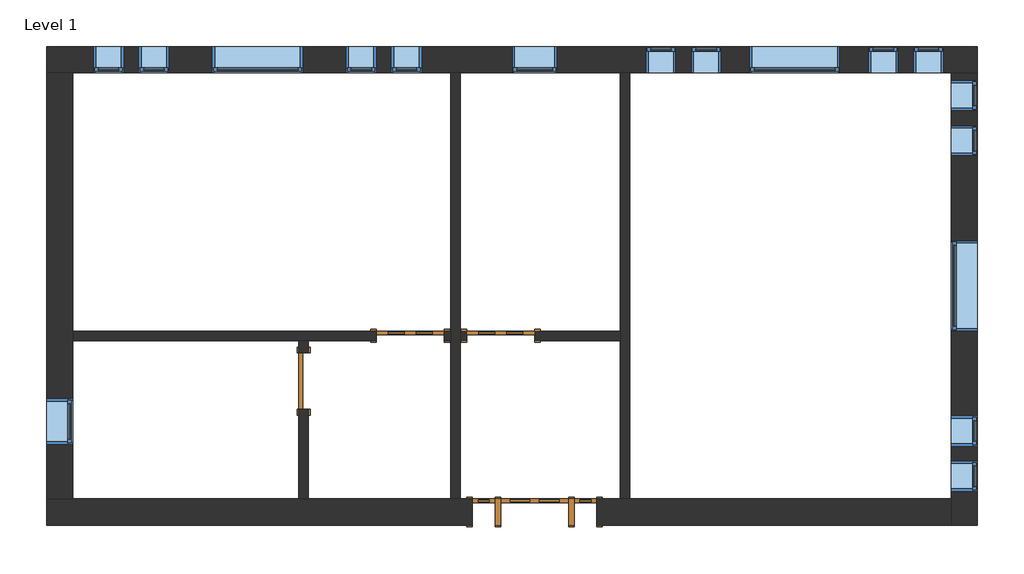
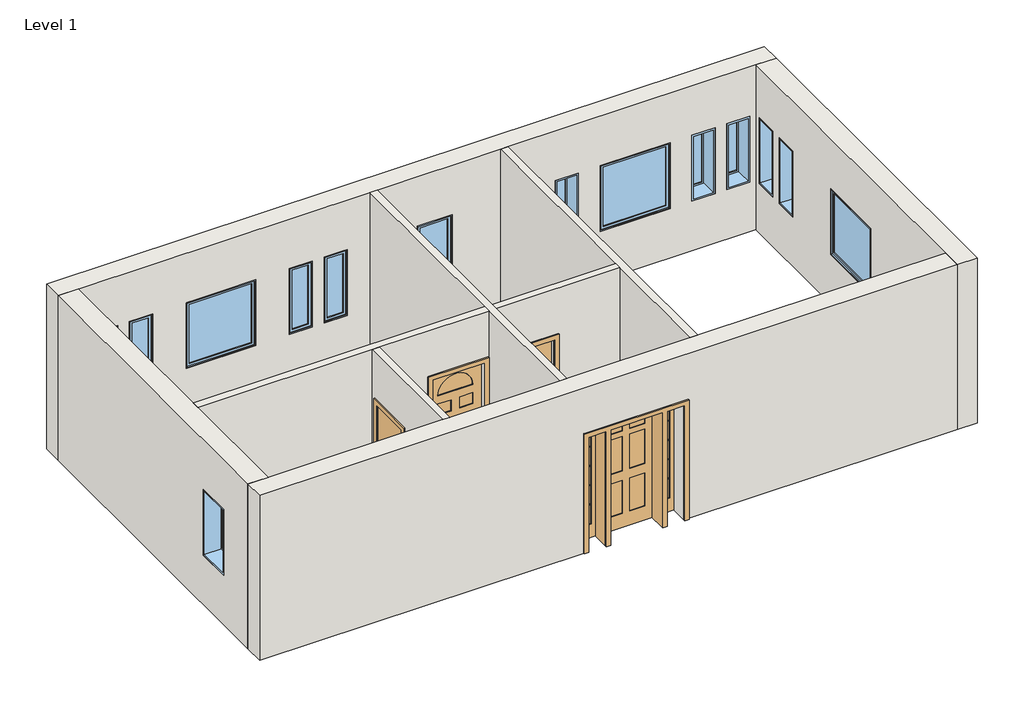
# One storey: 17 windows, 9 walls, 4 doors.
"""IFC4 building model written with IfcOpenShell, lengths in millimetres."""

from ifc_helpers import new_model, si_unit, frame, origin, place, context, project, spatial, polyline, outline, extrude, faceted_brep, transform, mapped, element, save
from components import door_829da954, door_2e3b4da2, door_4d6c7550, door_dba5aa2e, window_da97879f, window_d61ef850, window_60baf983, window_6eb97611

model = new_model("IFC4")

# Units and contexts
model_context = context("Model", 3, world=origin())
ifc_project = project(units=[si_unit("LENGTHUNIT", "METRE", prefix="MILLI")], contexts=[model_context])

# Site, building, storey
site = spatial("IfcSite", under=ifc_project)
building = spatial("IfcBuilding", under=site)
storey = spatial("IfcBuildingStorey", under=building, Name="Level 1", Elevation=0.0)

# Doors
placement = place(None, origin())
door_shape = door_829da954(model_context)
element("IfcDoor", 1, ObjectType="Single-Decorative 2 : 36\" x 84\"", at=placement, inside=storey, context=model_context, shape_type="MappedRepresentation", body=[
    mapped(door_shape, transform((-5449.8589563, 6723.5441867, 0.0), x_axis=(-1.0, 0.0, 0.0), y_axis=(0.0, -1.0, 0.0), z_axis=(0.0, 0.0, 1.0))),
])
door_2_shape = door_2e3b4da2(model_context)
element("IfcDoor", 2, ObjectType="Single-Decorative 2 : 36\" x 84\"", at=placement, inside=storey, context=model_context, shape_type="MappedRepresentation", body=[
    mapped(door_2_shape, transform((-6669.0589563, 6723.5441867, 0.0), x_axis=(1.0, 0.0, 0.0), y_axis=(0.0, 1.0, 0.0), z_axis=(0.0, 0.0, 1.0))),
])
door_3_shape = door_4d6c7550(model_context)
element("IfcDoor", 3, ObjectType="Single-Flush : 30\" x 84\"", at=placement, inside=storey, context=model_context, shape_type="MappedRepresentation", body=[
    mapped(door_3_shape, transform((-8105.7464563, 6113.9441867, 0.0), x_axis=(0.0, 1.0, 0.0), y_axis=(-1.0, 0.0, 0.0), z_axis=(0.0, 0.0, 1.0))),
])
door_4_shape = door_dba5aa2e(model_context)
element("IfcDoor", 4, ObjectType="Single-Raised Panel with Sidelights : 36\" x 84\"", at=placement, inside=storey, context=model_context, shape_type="MappedRepresentation", body=[
    mapped(door_4_shape, transform((-4992.6589563, 4350.2316867, 0.0), x_axis=(-1.0, 0.0, 0.0), y_axis=(0.0, -1.0, 0.0), z_axis=(0.0, 0.0, 1.0))),
])

# Walls
element("IfcWall", 5, ObjectType="Exterior - Brick on Mtl. Stud", at=placement, inside=storey, context=model_context, shape_type="Brep", body=[
    faceted_brep([(-11569.6714563, 10270.0191867, 0.0), (-11217.2464563, 10270.0191867, 0.0), (-6122.9589563, 10270.0191867, 0.0), (-5995.9589563, 10270.0191867, 0.0), (-3836.9589563, 10270.0191867, 0.0), (-3709.9589563, 10270.0191867, 0.0), (622.3285437, 10270.0191867, 0.0), (974.7535437, 10270.0191867, 0.0), (974.7535437, 10270.0191867, 3048.0), (622.3285437, 10270.0191867, 3048.0), (-3709.9589563, 10270.0191867, 3048.0), (-3836.9589563, 10270.0191867, 3048.0), (-5995.9589563, 10270.0191867, 3048.0), (-6122.9589563, 10270.0191867, 3048.0), (-11217.2464563, 10270.0191867, 3048.0), (-11569.6714563, 10270.0191867, 3048.0), (112.7410437, 10270.0191867, 2133.6), (519.1410437, 10270.0191867, 2133.6), (519.1410437, 10270.0191867, 914.4), (112.7410437, 10270.0191867, 914.4), (-496.8589563, 10270.0191867, 2133.6), (-90.4589563, 10270.0191867, 2133.6), (-90.4589563, 10270.0191867, 914.4), (-496.8589563, 10270.0191867, 914.4), (-3087.6589563, 10270.0191867, 2133.6), (-3087.6589563, 10270.0191867, 914.4), (-3494.0589563, 10270.0191867, 914.4), (-3494.0589563, 10270.0191867, 2133.6), (-2478.0589563, 10270.0191867, 2133.6), (-2478.0589563, 10270.0191867, 914.4), (-2884.4589563, 10270.0191867, 914.4), (-2884.4589563, 10270.0191867, 2133.6), (-7126.2589563, 10270.0191867, 2133.6), (-7126.2589563, 10270.0191867, 914.4), (-7532.6589563, 10270.0191867, 914.4), (-7532.6589563, 10270.0191867, 2133.6), (-6516.6589563, 10270.0191867, 2133.6), (-6516.6589563, 10270.0191867, 914.4), (-6923.0589563, 10270.0191867, 914.4), (-6923.0589563, 10270.0191867, 2133.6), (-10326.6589563, 10270.0191867, 2133.6), (-9920.2589563, 10270.0191867, 2133.6), (-9920.2589563, 10270.0191867, 914.4), (-10326.6589563, 10270.0191867, 914.4), (-10936.2589563, 10270.0191867, 2133.6), (-10529.8589563, 10270.0191867, 2133.6), (-10529.8589563, 10270.0191867, 914.4), (-10936.2589563, 10270.0191867, 914.4), (-2097.0589563, 10270.0191867, 2133.6), (-877.8589563, 10270.0191867, 2133.6), (-877.8589563, 10270.0191867, 914.4), (-2097.0589563, 10270.0191867, 914.4), (-9336.0589563, 10270.0191867, 2133.6), (-8116.8589563, 10270.0191867, 2133.6), (-8116.8589563, 10270.0191867, 914.4), (-9336.0589563, 10270.0191867, 914.4), (-5297.4589563, 10270.0191867, 2133.6), (-4687.8589563, 10270.0191867, 2133.6), (-4687.8589563, 10270.0191867, 914.4), (-5297.4589563, 10270.0191867, 914.4), (-11569.6714563, 10622.4441867, 0.0), (-11569.6714563, 10622.4441867, 3048.0), (974.7535437, 10622.4441867, 3048.0), (974.7535437, 10622.4441867, 0.0), (112.7410437, 10622.4441867, 2133.6), (112.7410437, 10622.4441867, 914.4), (519.1410437, 10622.4441867, 914.4), (519.1410437, 10622.4441867, 2133.6), (-496.8589563, 10622.4441867, 2133.6), (-496.8589563, 10622.4441867, 914.4), (-90.4589563, 10622.4441867, 914.4), (-90.4589563, 10622.4441867, 2133.6), (-3087.6589563, 10622.4441867, 2133.6), (-3494.0589563, 10622.4441867, 2133.6), (-3494.0589563, 10622.4441867, 914.4), (-3087.6589563, 10622.4441867, 914.4), (-2478.0589563, 10622.4441867, 2133.6), (-2884.4589563, 10622.4441867, 2133.6), (-2884.4589563, 10622.4441867, 914.4), (-2478.0589563, 10622.4441867, 914.4), (-7126.2589563, 10622.4441867, 2133.6), (-7532.6589563, 10622.4441867, 2133.6), (-7532.6589563, 10622.4441867, 914.4), (-7126.2589563, 10622.4441867, 914.4), (-6516.6589563, 10622.4441867, 2133.6), (-6923.0589563, 10622.4441867, 2133.6), (-6923.0589563, 10622.4441867, 914.4), (-6516.6589563, 10622.4441867, 914.4), (-10326.6589563, 10622.4441867, 2133.6), (-10326.6589563, 10622.4441867, 914.4), (-9920.2589563, 10622.4441867, 914.4), (-9920.2589563, 10622.4441867, 2133.6), (-10936.2589563, 10622.4441867, 2133.6), (-10936.2589563, 10622.4441867, 914.4), (-10529.8589563, 10622.4441867, 914.4), (-10529.8589563, 10622.4441867, 2133.6), (-2097.0589563, 10622.4441867, 2133.6), (-2097.0589563, 10622.4441867, 914.4), (-877.8589563, 10622.4441867, 914.4), (-877.8589563, 10622.4441867, 2133.6), (-9336.0589563, 10622.4441867, 2133.6), (-9336.0589563, 10622.4441867, 914.4), (-8116.8589563, 10622.4441867, 914.4), (-8116.8589563, 10622.4441867, 2133.6), (-5297.4589563, 10622.4441867, 2133.6), (-5297.4589563, 10622.4441867, 914.4), (-4687.8589563, 10622.4441867, 914.4), (-4687.8589563, 10622.4441867, 2133.6)], [[[0, 1, 2, 3, 4, 5, 6, 7, 8, 9, 10, 11, 12, 13, 14, 15], [16, 17, 18, 19], [20, 21, 22, 23], [24, 25, 26, 27], [28, 29, 30, 31], [32, 33, 34, 35], [36, 37, 38, 39], [40, 41, 42, 43], [44, 45, 46, 47], [48, 49, 50, 51], [52, 53, 54, 55], [56, 57, 58, 59]], [[60, 61, 62, 63], [64, 65, 66, 67], [68, 69, 70, 71], [72, 73, 74, 75], [76, 77, 78, 79], [80, 81, 82, 83], [84, 85, 86, 87], [88, 89, 90, 91], [92, 93, 94, 95], [96, 97, 98, 99], [100, 101, 102, 103], [104, 105, 106, 107]], [[7, 6, 5, 4, 3, 2, 1, 0, 60, 63]], [[15, 14, 13, 12, 11, 10, 9, 8, 62, 61]], [[8, 7, 63, 62]], [[0, 15, 61, 60]], [[65, 64, 16, 19]], [[66, 65, 19, 18]], [[67, 66, 18, 17]], [[64, 67, 17, 16]], [[69, 68, 20, 23]], [[70, 69, 23, 22]], [[71, 70, 22, 21]], [[68, 71, 21, 20]], [[25, 24, 72, 75]], [[26, 25, 75, 74]], [[27, 26, 74, 73]], [[24, 27, 73, 72]], [[29, 28, 76, 79]], [[30, 29, 79, 78]], [[31, 30, 78, 77]], [[28, 31, 77, 76]], [[33, 32, 80, 83]], [[34, 33, 83, 82]], [[35, 34, 82, 81]], [[32, 35, 81, 80]], [[37, 36, 84, 87]], [[38, 37, 87, 86]], [[39, 38, 86, 85]], [[36, 39, 85, 84]], [[89, 88, 40, 43]], [[90, 89, 43, 42]], [[91, 90, 42, 41]], [[88, 91, 41, 40]], [[93, 92, 44, 47]], [[94, 93, 47, 46]], [[95, 94, 46, 45]], [[92, 95, 45, 44]], [[97, 96, 48, 51]], [[98, 97, 51, 50]], [[99, 98, 50, 49]], [[96, 99, 49, 48]], [[101, 100, 52, 55]], [[102, 101, 55, 54]], [[103, 102, 54, 53]], [[100, 103, 53, 52]], [[105, 104, 56, 59]], [[106, 105, 59, 58]], [[107, 106, 58, 57]], [[104, 107, 57, 56]]]),
])
element("IfcWall", 6, ObjectType="Exterior - Brick on Mtl. Stud", at=placement, inside=storey, context=model_context, shape_type="Brep", body=[
    faceted_brep([(622.3285437, 10270.0191867, 0.0), (622.3285437, 4526.4441867, 0.0), (622.3285437, 4174.0191867, 0.0), (622.3285437, 4174.0191867, 3048.0), (622.3285437, 4526.4441867, 3048.0), (622.3285437, 10270.0191867, 3048.0), (622.3285437, 5036.0316867, 2133.6), (622.3285437, 4629.6316867, 2133.6), (622.3285437, 4629.6316867, 914.4), (622.3285437, 5036.0316867, 914.4), (622.3285437, 5645.6316867, 2133.6), (622.3285437, 5239.2316867, 2133.6), (622.3285437, 5239.2316867, 914.4), (622.3285437, 5645.6316867, 914.4), (622.3285437, 9760.4316867, 2133.6), (622.3285437, 9760.4316867, 914.4), (622.3285437, 10166.8316867, 914.4), (622.3285437, 10166.8316867, 2133.6), (622.3285437, 9150.8316867, 2133.6), (622.3285437, 9150.8316867, 914.4), (622.3285437, 9557.2316867, 914.4), (622.3285437, 9557.2316867, 2133.6), (622.3285437, 8007.8316867, 2133.6), (622.3285437, 6788.6316867, 2133.6), (622.3285437, 6788.6316867, 914.4), (622.3285437, 8007.8316867, 914.4), (974.7535437, 10270.0191867, 0.0), (974.7535437, 10270.0191867, 3048.0), (974.7535437, 4174.0191867, 3048.0), (974.7535437, 4174.0191867, 0.0), (974.7535437, 5036.0316867, 2133.6), (974.7535437, 5036.0316867, 914.4), (974.7535437, 4629.6316867, 914.4), (974.7535437, 4629.6316867, 2133.6), (974.7535437, 5645.6316867, 2133.6), (974.7535437, 5645.6316867, 914.4), (974.7535437, 5239.2316867, 914.4), (974.7535437, 5239.2316867, 2133.6), (974.7535437, 9760.4316867, 2133.6), (974.7535437, 10166.8316867, 2133.6), (974.7535437, 10166.8316867, 914.4), (974.7535437, 9760.4316867, 914.4), (974.7535437, 9150.8316867, 2133.6), (974.7535437, 9557.2316867, 2133.6), (974.7535437, 9557.2316867, 914.4), (974.7535437, 9150.8316867, 914.4), (974.7535437, 8007.8316867, 2133.6), (974.7535437, 8007.8316867, 914.4), (974.7535437, 6788.6316867, 914.4), (974.7535437, 6788.6316867, 2133.6)], [[[0, 1, 2, 3, 4, 5], [6, 7, 8, 9], [10, 11, 12, 13], [14, 15, 16, 17], [18, 19, 20, 21], [22, 23, 24, 25]], [[26, 27, 28, 29], [30, 31, 32, 33], [34, 35, 36, 37], [38, 39, 40, 41], [42, 43, 44, 45], [46, 47, 48, 49]], [[2, 1, 0, 26, 29]], [[5, 4, 3, 28, 27]], [[3, 2, 29, 28]], [[0, 5, 27, 26]], [[31, 30, 6, 9]], [[32, 31, 9, 8]], [[33, 32, 8, 7]], [[30, 33, 7, 6]], [[35, 34, 10, 13]], [[36, 35, 13, 12]], [[37, 36, 12, 11]], [[34, 37, 11, 10]], [[15, 14, 38, 41]], [[16, 15, 41, 40]], [[17, 16, 40, 39]], [[14, 17, 39, 38]], [[19, 18, 42, 45]], [[20, 19, 45, 44]], [[21, 20, 44, 43]], [[18, 21, 43, 42]], [[47, 46, 22, 25]], [[48, 47, 25, 24]], [[49, 48, 24, 23]], [[46, 49, 23, 22]]]),
])
element("IfcWall", 7, ObjectType="Exterior - Brick on Mtl. Stud", at=placement, inside=storey, context=model_context, shape_type="Brep", body=[
    faceted_brep([(-5830.8589563, 4526.4441867, 2133.6), (-5830.8589563, 4526.4441867, 0.0), (-5995.9589563, 4526.4441867, 0.0), (-6122.9589563, 4526.4441867, 0.0), (-8042.2464563, 4526.4441867, 0.0), (-8169.2464563, 4526.4441867, 0.0), (-11217.2464563, 4526.4441867, 0.0), (-11569.6714563, 4526.4441867, 0.0), (-11569.6714563, 4526.4441867, 3048.0), (-11217.2464563, 4526.4441867, 3048.0), (-8169.2464563, 4526.4441867, 3048.0), (-8042.2464563, 4526.4441867, 3048.0), (-6122.9589563, 4526.4441867, 3048.0), (-5995.9589563, 4526.4441867, 3048.0), (-3836.9589563, 4526.4441867, 3048.0), (-3709.9589563, 4526.4441867, 3048.0), (622.3285437, 4526.4441867, 3048.0), (622.3285437, 4526.4441867, 0.0), (-3709.9589563, 4526.4441867, 0.0), (-3836.9589563, 4526.4441867, 0.0), (-4154.4589563, 4526.4441867, 0.0), (-4154.4589563, 4526.4441867, 2133.6), (-11569.6714563, 4174.0191867, 0.0), (-5830.8589563, 4174.0191867, 0.0), (-5830.8589563, 4174.0191867, 2133.6), (-4154.4589563, 4174.0191867, 2133.6), (-4154.4589563, 4174.0191867, 0.0), (622.3285437, 4174.0191867, 0.0), (622.3285437, 4174.0191867, 3048.0), (-11569.6714563, 4174.0191867, 3048.0)], [[[0, 1, 2, 3, 4, 5, 6, 7, 8, 9, 10, 11, 12, 13, 14, 15, 16, 17, 18, 19, 20, 21]], [[22, 23, 24, 25, 26, 27, 28, 29]], [[7, 6, 5, 4, 3, 2, 1, 23, 22]], [[20, 19, 18, 17, 27, 26]], [[16, 15, 14, 13, 12, 11, 10, 9, 8, 29, 28]], [[8, 7, 22, 29]], [[17, 16, 28, 27]], [[24, 23, 1, 0]], [[25, 24, 0, 21]], [[26, 25, 21, 20]]]),
])
element("IfcWall", 8, ObjectType="Exterior - Brick on Mtl. Stud", at=placement, inside=storey, context=model_context, shape_type="Brep", body=[
    faceted_brep([(-11217.2464563, 4526.4441867, 0.0), (-11217.2464563, 6660.0441867, 0.0), (-11217.2464563, 6787.0441867, 0.0), (-11217.2464563, 10270.0191867, 0.0), (-11217.2464563, 10270.0191867, 3048.0), (-11217.2464563, 6787.0441867, 3048.0), (-11217.2464563, 6660.0441867, 3048.0), (-11217.2464563, 4526.4441867, 3048.0), (-11217.2464563, 5264.6316867, 2133.6), (-11217.2464563, 5874.2316867, 2133.6), (-11217.2464563, 5874.2316867, 914.4), (-11217.2464563, 5264.6316867, 914.4), (-11569.6714563, 4526.4441867, 0.0), (-11569.6714563, 4526.4441867, 3048.0), (-11569.6714563, 10270.0191867, 3048.0), (-11569.6714563, 10270.0191867, 0.0), (-11569.6714563, 5264.6316867, 2133.6), (-11569.6714563, 5264.6316867, 914.4), (-11569.6714563, 5874.2316867, 914.4), (-11569.6714563, 5874.2316867, 2133.6)], [[[0, 1, 2, 3, 4, 5, 6, 7], [8, 9, 10, 11]], [[12, 13, 14, 15], [16, 17, 18, 19]], [[3, 2, 1, 0, 12, 15]], [[7, 6, 5, 4, 14, 13]], [[0, 7, 13, 12]], [[4, 3, 15, 14]], [[17, 16, 8, 11]], [[18, 17, 11, 10]], [[19, 18, 10, 9]], [[16, 19, 9, 8]]]),
])
element("IfcWall", 9, ObjectType="Interior - 5\" Partition (2-hr)", at=placement, inside=storey, context=model_context, shape_type="Brep", body=[
    faceted_brep([(-3836.9589563, 10270.0191867, 0.0), (-3836.9589563, 6787.0441867, 0.0), (-3836.9589563, 6660.0441867, 0.0), (-3836.9589563, 4526.4441867, 0.0), (-3836.9589563, 4526.4441867, 3048.0), (-3836.9589563, 6660.0441867, 3048.0), (-3836.9589563, 6787.0441867, 3048.0), (-3836.9589563, 10270.0191867, 3048.0), (-3709.9589563, 10270.0191867, 0.0), (-3709.9589563, 10270.0191867, 3048.0), (-3709.9589563, 4526.4441867, 3048.0), (-3709.9589563, 4526.4441867, 0.0)], [[[0, 1, 2, 3, 4, 5, 6, 7]], [[8, 9, 10, 11]], [[3, 2, 1, 0, 8, 11]], [[7, 6, 5, 4, 10, 9]], [[0, 7, 9, 8]], [[4, 3, 11, 10]]]),
])
element("IfcWall", 10, ObjectType="Interior - 5\" Partition (2-hr)", at=placement, inside=storey, context=model_context, shape_type="Brep", body=[
    faceted_brep([(-6122.9589563, 10270.0191867, 0.0), (-6122.9589563, 6787.0441867, 0.0), (-6122.9589563, 6660.0441867, 0.0), (-6122.9589563, 4526.4441867, 0.0), (-6122.9589563, 4526.4441867, 3048.0), (-6122.9589563, 6660.0441867, 3048.0), (-6122.9589563, 6787.0441867, 3048.0), (-6122.9589563, 10270.0191867, 3048.0), (-5995.9589563, 10270.0191867, 0.0), (-5995.9589563, 10270.0191867, 3048.0), (-5995.9589563, 6787.0441867, 3048.0), (-5995.9589563, 6660.0441867, 3048.0), (-5995.9589563, 4526.4441867, 3048.0), (-5995.9589563, 4526.4441867, 0.0), (-5995.9589563, 6660.0441867, 0.0), (-5995.9589563, 6787.0441867, 0.0)], [[[0, 1, 2, 3, 4, 5, 6, 7]], [[8, 9, 10, 11, 12, 13, 14, 15]], [[3, 2, 1, 0, 8, 15, 14, 13]], [[7, 6, 5, 4, 12, 11, 10, 9]], [[0, 7, 9, 8]], [[4, 3, 13, 12]]]),
])
element("IfcWall", 11, ObjectType="Interior - 5\" Partition (2-hr)", at=placement, inside=storey, context=model_context, shape_type="Brep", body=[
    faceted_brep([(-6211.8589563, 6660.0441867, 2133.6), (-6211.8589563, 6660.0441867, 0.0), (-6122.9589563, 6660.0441867, 0.0), (-6122.9589563, 6660.0441867, 3048.0), (-8042.2464563, 6660.0441867, 3048.0), (-8169.2464563, 6660.0441867, 3048.0), (-11217.2464563, 6660.0441867, 3048.0), (-11217.2464563, 6660.0441867, 0.0), (-8169.2464563, 6660.0441867, 0.0), (-8042.2464563, 6660.0441867, 0.0), (-7126.2589563, 6660.0441867, 0.0), (-7126.2589563, 6660.0441867, 2133.6), (-6122.9589563, 6787.0441867, 0.0), (-6211.8589563, 6787.0441867, 0.0), (-6211.8589563, 6787.0441867, 2133.6), (-7126.2589563, 6787.0441867, 2133.6), (-7126.2589563, 6787.0441867, 0.0), (-11217.2464563, 6787.0441867, 0.0), (-11217.2464563, 6787.0441867, 3048.0), (-6122.9589563, 6787.0441867, 3048.0)], [[[0, 1, 2, 3, 4, 5, 6, 7, 8, 9, 10, 11]], [[12, 13, 14, 15, 16, 17, 18, 19]], [[2, 1, 13, 12]], [[10, 9, 8, 7, 17, 16]], [[6, 5, 4, 3, 19, 18]], [[7, 6, 18, 17]], [[3, 2, 12, 19]], [[14, 13, 1, 0]], [[15, 14, 0, 11]], [[16, 15, 11, 10]]]),
])
element("IfcWall", 12, ObjectType="Interior - 5\" Partition (2-hr)", at=placement, inside=storey, context=model_context, shape_type="SweptSolid", body=[
    extrude(outline(polyline([(6660.0441867, 0.0), (6494.9441867, 0.0), (6494.9441867, 2133.6), (5732.9441867, 2133.6), (5732.9441867, 0.0), (4526.4441867, 0.0), (4526.4441867, 3048.0), (6660.0441867, 3048.0), (6660.0441867, 0.0)])), frame((-8169.2464563, 0.0, 0.0), z_axis=(1.0, 0.0, 0.0), x_axis=(0.0, 1.0, 0.0)), (0.0, 0.0, 1.0), 127.0),
])
element("IfcWall", 13, ObjectType="Interior - 5\" Partition (2-hr)", at=placement, inside=storey, context=model_context, shape_type="SweptSolid", body=[
    extrude(outline(polyline([(0.0, -5995.9589563), (0.0, -5907.0589563), (2133.6, -5907.0589563), (2133.6, -4992.6589563), (0.0, -4992.6589563), (0.0, -3836.9589563), (3048.0, -3836.9589563), (3048.0, -5995.9589563), (0.0, -5995.9589563)])), frame((0.0, 6660.0441867, 0.0), z_axis=(0.0, 1.0, 0.0), x_axis=(0.0, 0.0, 1.0)), (0.0, 0.0, 1.0), 127.0),
])

# Windows
window_shape = window_da97879f(model_context)
element("IfcWindow", 14, ObjectType="Fixed : 16\" x 48\"", at=placement, inside=storey, context=model_context, shape_type="MappedRepresentation", body=[
    mapped(window_shape, transform((-10771.1589563, 10446.2316867, 0.0), x_axis=(-1.0, 0.0, 0.0), y_axis=(0.0, -1.0, 0.0), z_axis=(0.0, 0.0, 1.0))),
])
element("IfcWindow", 15, ObjectType="Fixed : 16\" x 48\"", at=placement, inside=storey, context=model_context, shape_type="MappedRepresentation", body=[
    mapped(window_shape, transform((-10161.5589563, 10446.2316867, 0.0), x_axis=(-1.0, 0.0, 0.0), y_axis=(0.0, -1.0, 0.0), z_axis=(0.0, 0.0, 1.0))),
])
element("IfcWindow", 16, ObjectType="Fixed : 16\" x 48\"", at=placement, inside=storey, context=model_context, shape_type="MappedRepresentation", body=[
    mapped(window_shape, transform((-2643.1589563, 10446.2316867, 0.0), x_axis=(1.0, 0.0, 0.0), y_axis=(0.0, 1.0, 0.0), z_axis=(0.0, 0.0, 1.0))),
])
element("IfcWindow", 17, ObjectType="Fixed : 16\" x 48\"", at=placement, inside=storey, context=model_context, shape_type="MappedRepresentation", body=[
    mapped(window_shape, transform((-3252.7589563, 10446.2316867, 0.0), x_axis=(1.0, 0.0, 0.0), y_axis=(0.0, 1.0, 0.0), z_axis=(0.0, 0.0, 1.0))),
])
element("IfcWindow", 18, ObjectType="Fixed : 16\" x 48\"", at=placement, inside=storey, context=model_context, shape_type="MappedRepresentation", body=[
    mapped(window_shape, transform((798.5410437, 9315.9316867, 0.0), x_axis=(0.0, -1.0, 0.0), y_axis=(1.0, 0.0, 0.0), z_axis=(0.0, 0.0, 1.0))),
])
element("IfcWindow", 19, ObjectType="Fixed : 16\" x 48\"", at=placement, inside=storey, context=model_context, shape_type="MappedRepresentation", body=[
    mapped(window_shape, transform((798.5410437, 9925.5316867, 0.0), x_axis=(0.0, -1.0, 0.0), y_axis=(1.0, 0.0, 0.0), z_axis=(0.0, 0.0, 1.0))),
])
window_2_shape = window_d61ef850(model_context)
element("IfcWindow", 20, ObjectType="Fixed : 16\" x 48\"", at=placement, inside=storey, context=model_context, shape_type="MappedRepresentation", body=[
    mapped(window_2_shape, transform((-6681.7589563, 10446.2316867, 0.0), x_axis=(1.0, 0.0, 0.0), y_axis=(0.0, 1.0, 0.0), z_axis=(0.0, 0.0, 1.0))),
])
element("IfcWindow", 21, ObjectType="Fixed : 16\" x 48\"", at=placement, inside=storey, context=model_context, shape_type="MappedRepresentation", body=[
    mapped(window_2_shape, transform((-7291.3589563, 10446.2316867, 0.0), x_axis=(1.0, 0.0, 0.0), y_axis=(0.0, 1.0, 0.0), z_axis=(0.0, 0.0, 1.0))),
])
element("IfcWindow", 22, ObjectType="Fixed : 16\" x 48\"", at=placement, inside=storey, context=model_context, shape_type="MappedRepresentation", body=[
    mapped(window_2_shape, transform((-331.7589563, 10446.2316867, 0.0), x_axis=(-1.0, 0.0, 0.0), y_axis=(0.0, -1.0, 0.0), z_axis=(0.0, 0.0, 1.0))),
])
element("IfcWindow", 23, ObjectType="Fixed : 16\" x 48\"", at=placement, inside=storey, context=model_context, shape_type="MappedRepresentation", body=[
    mapped(window_2_shape, transform((277.8410437, 10446.2316867, 0.0), x_axis=(-1.0, 0.0, 0.0), y_axis=(0.0, -1.0, 0.0), z_axis=(0.0, 0.0, 1.0))),
])
element("IfcWindow", 24, ObjectType="Fixed : 16\" x 48\"", at=placement, inside=storey, context=model_context, shape_type="MappedRepresentation", body=[
    mapped(window_2_shape, transform((798.5410437, 5480.5316867, 0.0), x_axis=(0.0, 1.0, 0.0), y_axis=(-1.0, 0.0, 0.0), z_axis=(0.0, 0.0, 1.0))),
])
element("IfcWindow", 25, ObjectType="Fixed : 16\" x 48\"", at=placement, inside=storey, context=model_context, shape_type="MappedRepresentation", body=[
    mapped(window_2_shape, transform((798.5410437, 4870.9316867, 0.0), x_axis=(0.0, 1.0, 0.0), y_axis=(-1.0, 0.0, 0.0), z_axis=(0.0, 0.0, 1.0))),
])
window_3_shape = window_60baf983(model_context)
element("IfcWindow", 26, ObjectType="Fixed : 24\" x 48\"", at=placement, inside=storey, context=model_context, shape_type="MappedRepresentation", body=[
    mapped(window_3_shape, transform((-5030.7589563, 10446.2316867, 0.0), x_axis=(-1.0, 0.0, 0.0), y_axis=(0.0, -1.0, 0.0), z_axis=(0.0, 0.0, 1.0))),
])
element("IfcWindow", 27, ObjectType="Fixed : 24\" x 48\"", at=placement, inside=storey, context=model_context, shape_type="MappedRepresentation", body=[
    mapped(window_3_shape, transform((-11393.4589563, 5531.3316867, 0.0), x_axis=(0.0, -1.0, 0.0), y_axis=(1.0, 0.0, 0.0), z_axis=(0.0, 0.0, 1.0))),
])
window_4_shape = window_6eb97611(model_context)
element("IfcWindow", 28, ObjectType="Fixed : 48\" x 48\"", at=placement, inside=storey, context=model_context, shape_type="MappedRepresentation", body=[
    mapped(window_4_shape, transform((-8764.5589563, 10446.2316867, 0.0), x_axis=(-1.0, 0.0, 0.0), y_axis=(0.0, -1.0, 0.0), z_axis=(0.0, 0.0, 1.0))),
])
element("IfcWindow", 29, ObjectType="Fixed : 48\" x 48\"", at=placement, inside=storey, context=model_context, shape_type="MappedRepresentation", body=[
    mapped(window_4_shape, transform((-1525.5589563, 10446.2316867, 0.0), x_axis=(-1.0, 0.0, 0.0), y_axis=(0.0, -1.0, 0.0), z_axis=(0.0, 0.0, 1.0))),
])
element("IfcWindow", 30, ObjectType="Fixed : 48\" x 48\"", at=placement, inside=storey, context=model_context, shape_type="MappedRepresentation", body=[
    mapped(window_4_shape, transform((798.5410437, 7436.3316867, 0.0), x_axis=(0.0, 1.0, 0.0), y_axis=(-1.0, 0.0, 0.0), z_axis=(0.0, 0.0, 1.0))),
])

save(model, "model.ifc")
